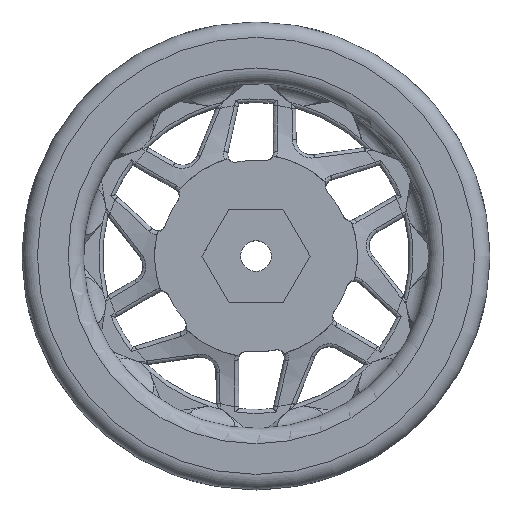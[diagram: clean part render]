
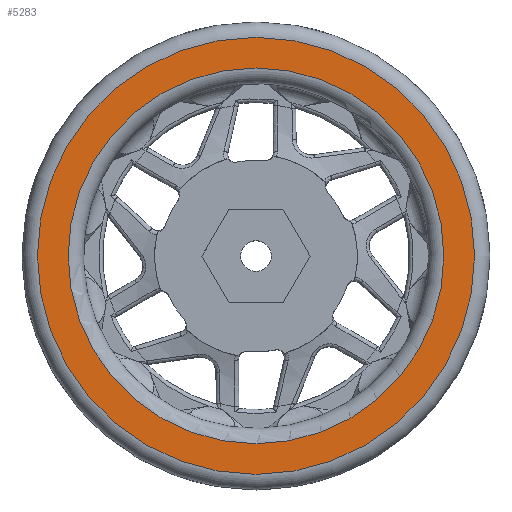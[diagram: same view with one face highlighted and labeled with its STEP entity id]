
A CAD part, top view. The second image highlights one B-rep face of the part: STEP entity #5283.
In plain terms, the highlighted planar face has unit normal (0, 0, 1).
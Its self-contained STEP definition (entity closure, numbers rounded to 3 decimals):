
#521=PLANE('',#5800);
#1018=FACE_BOUND('',#1721,.T.);
#1348=FACE_OUTER_BOUND('',#1720,.T.);
#1720=EDGE_LOOP('',(#4846));
#1721=EDGE_LOOP('',(#4847));
#2038=CIRCLE('',#5799,24.5);
#2039=CIRCLE('',#5801,28.5);
#2530=VERTEX_POINT('',#18679);
#2531=VERTEX_POINT('',#18682);
#3321=EDGE_CURVE('',#2530,#2530,#2038,.T.);
#3322=EDGE_CURVE('',#2531,#2531,#2039,.T.);
#4846=ORIENTED_EDGE('',*,*,#3322,.F.);
#4847=ORIENTED_EDGE('',*,*,#3321,.F.);
#5283=ADVANCED_FACE('',(#1348,#1018),#521,.T.);
#5799=AXIS2_PLACEMENT_3D('',#18680,#7012,#7013);
#5800=AXIS2_PLACEMENT_3D('',#18681,#7014,#7015);
#5801=AXIS2_PLACEMENT_3D('',#18683,#7016,#7017);
#7012=DIRECTION('center_axis',(0.,0.,1.));
#7013=DIRECTION('ref_axis',(-1.,0.,0.));
#7014=DIRECTION('center_axis',(0.,0.,1.));
#7015=DIRECTION('ref_axis',(1.,0.,0.));
#7016=DIRECTION('center_axis',(0.,0.,-1.));
#7017=DIRECTION('ref_axis',(-1.,0.,0.));
#18679=CARTESIAN_POINT('',(24.5,0.,20.));
#18680=CARTESIAN_POINT('Origin',(0.,0.,20.));
#18681=CARTESIAN_POINT('Origin',(0.,0.,20.));
#18682=CARTESIAN_POINT('',(28.5,0.,20.));
#18683=CARTESIAN_POINT('Origin',(0.,0.,20.));
